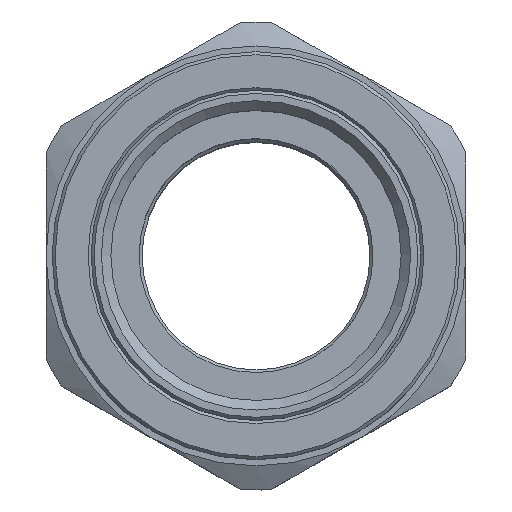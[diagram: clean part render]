
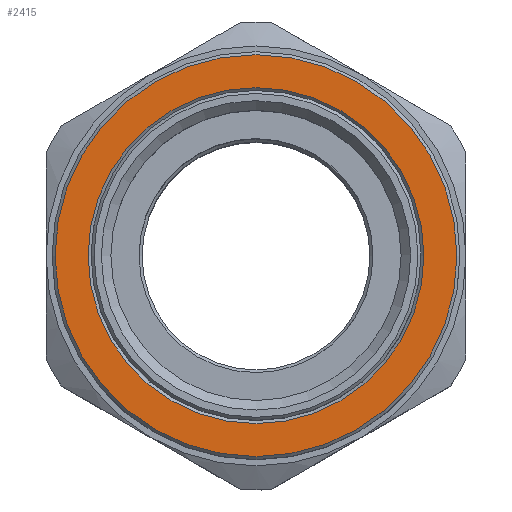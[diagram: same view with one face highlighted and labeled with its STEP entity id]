
A CAD part, top view. The second image highlights one B-rep face of the part: STEP entity #2415.
In plain terms, the highlighted planar face has unit normal (0, 0, 1).
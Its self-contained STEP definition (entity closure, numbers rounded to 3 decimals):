
#2384=CARTESIAN_POINT('',(28.0,0.,48.5));
#2385=VERTEX_POINT('',#2384);
#2386=CARTESIAN_POINT('',(0.0,0.0,48.5));
#2387=DIRECTION('',(0.0,0.0,1.0));
#2388=DIRECTION('',(-1.0,0.0,0.0));
#2389=AXIS2_PLACEMENT_3D('',#2386,#2387,#2388);
#2390=CIRCLE('',#2389,28.0);
#2391=EDGE_CURVE('',#2385,#2385,#2390,.T.);
#2396=CARTESIAN_POINT('',(0.,0.,48.5));
#2397=DIRECTION('',(0.0,0.0,1.0));
#2398=DIRECTION('',(1.0,0.0,0.0));
#2399=AXIS2_PLACEMENT_3D('',#2396,#2397,#2398);
#2400=PLANE('',#2399);
#2401=CARTESIAN_POINT('',(33.5,0.,48.5));
#2402=VERTEX_POINT('',#2401);
#2403=CARTESIAN_POINT('',(0.0,0.0,48.5));
#2404=DIRECTION('',(0.0,0.0,-1.0));
#2405=DIRECTION('',(-1.0,0.0,0.0));
#2406=AXIS2_PLACEMENT_3D('',#2403,#2404,#2405);
#2407=CIRCLE('',#2406,33.5);
#2408=EDGE_CURVE('',#2402,#2402,#2407,.T.);
#2409=ORIENTED_EDGE('',*,*,#2408,.F.);
#2410=EDGE_LOOP('',(#2409));
#2411=FACE_OUTER_BOUND('',#2410,.T.);
#2412=ORIENTED_EDGE('',*,*,#2391,.F.);
#2413=EDGE_LOOP('',(#2412));
#2414=FACE_BOUND('',#2413,.T.);
#2415=ADVANCED_FACE('',(#2411,#2414),#2400,.T.);
